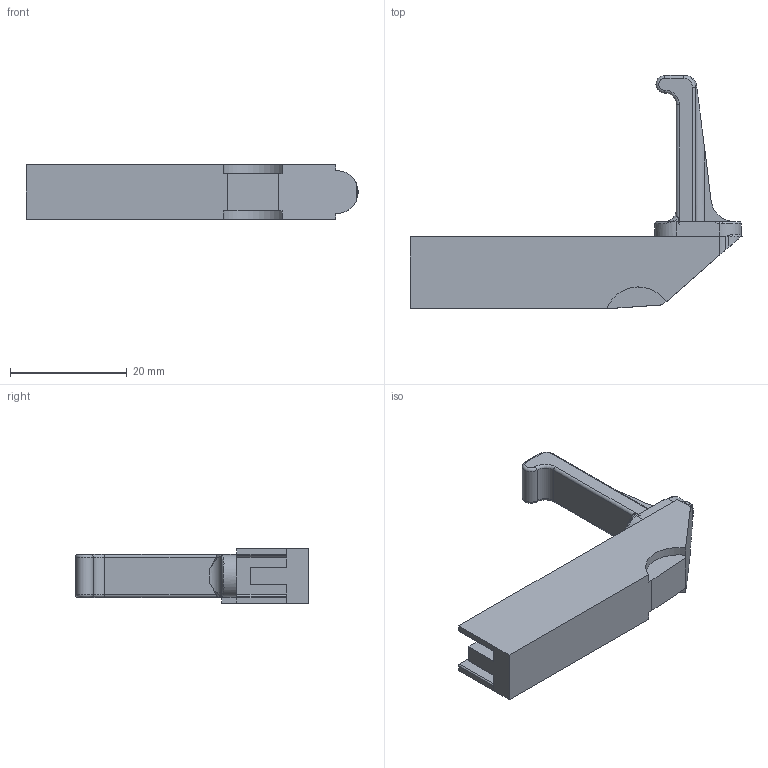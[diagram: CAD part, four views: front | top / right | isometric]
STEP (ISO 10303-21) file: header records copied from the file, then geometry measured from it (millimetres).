
FILE_DESCRIPTION(/* description */ (''),/* implementation_level */ '2;1');
FILE_NAME(/* name */ 'G:/Developer/Repos/Superstar-15/STEPs/Triggers/EpoxyTrigger-Straight.step',/* time_stamp */ '2020-10-31T22:01:24-04:00',/* author */ (''),/* organization */ (''),/* preprocessor_version */ 'ST-DEVELOPER v18.1',/* originating_system */ 'Autodesk Translation Framework v9.3.0.1241',/* authorisation */ '');
FILE_SCHEMA (('AUTOMOTIVE_DESIGN { 1 0 10303 214 3 1 1 }'));
Length unit declared in the file: millimetre
Products named in the file (1): Trigger
Bounding box: 56.83 x 39.88 x 9.37 mm (x, y, z)
Volume: 6237.2 mm3; surface area: 3498.9 mm2
Topology: 2 solids, 2 shells, 109 faces, 296 edges, 189 vertices
Faces by surface type: plane 41, cylinder 33, bspline 23, torus 12
Entity records: 15929 total; most frequent: CARTESIAN_POINT 13294, ORIENTED_EDGE 588, DIRECTION 480, EDGE_CURVE 294, VERTEX_POINT 189, AXIS2_PLACEMENT_3D 168, LINE 144, VECTOR 144
